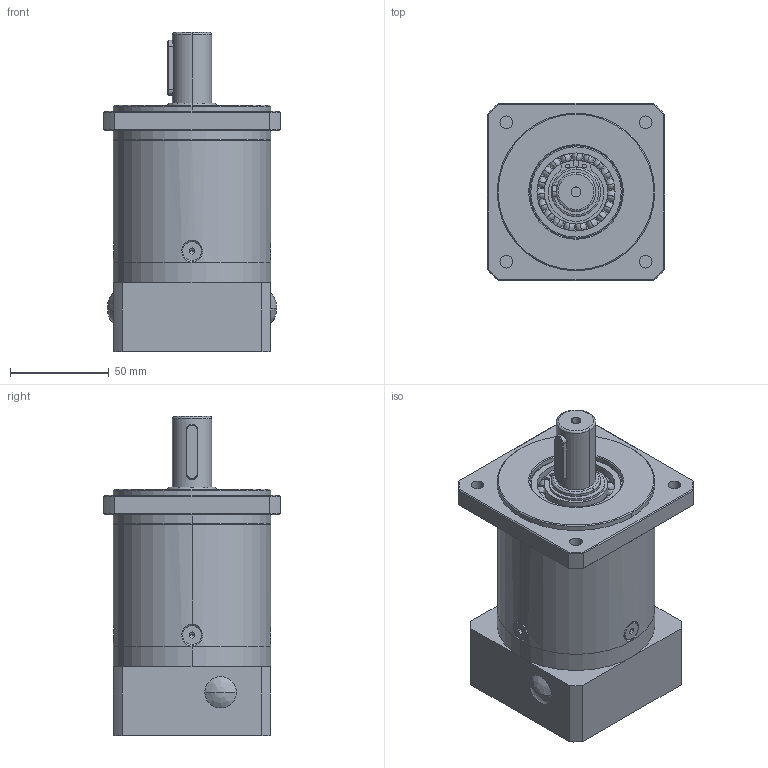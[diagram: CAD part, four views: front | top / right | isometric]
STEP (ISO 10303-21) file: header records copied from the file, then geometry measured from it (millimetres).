
FILE_DESCRIPTION (( 'STEP AP214' ), '1' );
FILE_NAME ('PF80L2-70-19-M5.STEP', '2020-09-09T03:05:25', ( '微软用户' ), ( '微软中国' ), 'SwSTEP 2.0', 'SolidWorks 2014', '' );
FILE_SCHEMA (( 'AUTOMOTIVE_DESIGN' ));
Length unit declared in the file: millimetre
Products named in the file (82): 俴陎謫I5; Plain parallel keys_GB_CONNECTING_PIECE_KEYS_CSK 6X28; Hexagon socket countersunk head screws GB_GB_FASTENER_SCREWS_HSCHS M5X12-N; 小垫片10.4X22.5X0.5; 幗渀粣創; Circlips for shaft--Type B GB_GB_CONNECTING_PIECE_RINGS_CSB 25; Deep groove ball bearings GB_Rolling bearings 6005 GB 276-94; Circlips for holes--Type A GB_GB_CONNECTING_PIECE_RING_RRH 47; 80俴陎謫I8; 路燭え66X22; Circlips for hole--Type B GB_GB_CONNECTING_PIECE_RINGS_CHB 47; O型圈; 俴陎殤I8; 酗种粣10.347; 菜え22X66X0.5; 40怀堤粣; 输入端盖新; 80怮栠謫I8; 怮栠謫I5; 输入轴; 傻俴陎粣10.347; 80两级齿圈; PF80L2-70-19-M5; 黑裔; Hexagon socket head cap screws GB_GB_FASTENER_SCREWS_HSHCS M5X16-N; 堤粣源傷裔
Assembly tree (56 placements, depth 2):
  俴陎謫I5
  Hexagon socket countersunk head screws GB_GB_FASTENER_SCREWS_HSCHS M5X12-N
  小垫片10.4X22.5X0.5
  幗渀粣創
  Hexagon socket countersunk head screws GB_GB_FASTENER_SCREWS_HSCHS M5X12-N
Bounding box: 90 x 90 x 162 mm (x, y, z)
Volume: 569237.4 mm3; surface area: 218197.7 mm2
Topology: 56 solids, 56 shells, 1298 faces, 3867 edges, 2356 vertices
Faces by surface type: cylinder 452, bspline 356, plane 303, cone 187
Entity records: 30209 total; most frequent: CARTESIAN_POINT 10304, ORIENTED_EDGE 3836, DIRECTION 3678, EDGE_CURVE 1918, AXIS2_PLACEMENT_3D 1532, VERTEX_POINT 1241, CIRCLE 873, EDGE_LOOP 857
